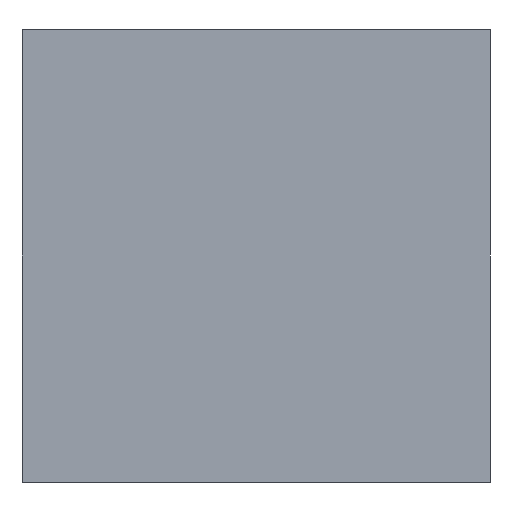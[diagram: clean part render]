
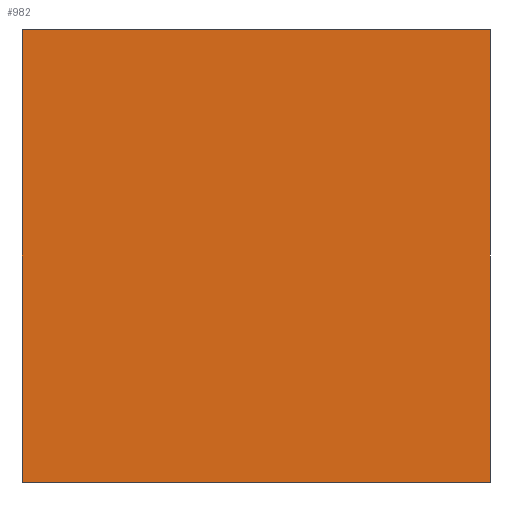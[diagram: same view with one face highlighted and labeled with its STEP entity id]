
A CAD part, left-side view. The second image highlights one B-rep face of the part: STEP entity #982.
In plain terms, the highlighted planar face has unit normal (-1, 0, 0).
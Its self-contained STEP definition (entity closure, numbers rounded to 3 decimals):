
#25 = AXIS2_PLACEMENT_3D ( 'NONE', #756, #1174, #1326 ) ;
#32 = CARTESIAN_POINT ( 'NONE',  ( -98., 25.5, 49.3 ) ) ;
#39 = CARTESIAN_POINT ( 'NONE',  ( -98., -25.5, 0. ) ) ;
#163 = VERTEX_POINT ( 'NONE', #1120 ) ;
#228 = EDGE_LOOP ( 'NONE', ( #680, #2117, #1532, #1741 ) ) ;
#311 = CARTESIAN_POINT ( 'NONE',  ( -98., -25.5, 0. ) ) ;
#386 = LINE ( 'NONE', #901, #1773 ) ;
#494 = VERTEX_POINT ( 'NONE', #32 ) ;
#605 = EDGE_CURVE ( 'NONE', #494, #163, #1764, .T. ) ;
#639 = VECTOR ( 'NONE', #1991, 1000. ) ;
#651 = VECTOR ( 'NONE', #1537, 1000. ) ;
#680 = ORIENTED_EDGE ( 'NONE', *, *, #1598, .T. ) ;
#711 = LINE ( 'NONE', #722, #651 ) ;
#722 = CARTESIAN_POINT ( 'NONE',  ( -98., -25.5, 49.3 ) ) ;
#745 = FACE_OUTER_BOUND ( 'NONE', #228, .T. ) ;
#756 = CARTESIAN_POINT ( 'NONE',  ( -98., -25.5, 49.3 ) ) ;
#778 = VERTEX_POINT ( 'NONE', #874 ) ;
#786 = VERTEX_POINT ( 'NONE', #311 ) ;
#874 = CARTESIAN_POINT ( 'NONE',  ( -98., -25.5, 49.3 ) ) ;
#901 = CARTESIAN_POINT ( 'NONE',  ( -98., -25.5, 49.3 ) ) ;
#982 = ADVANCED_FACE ( 'NONE', ( #745 ), #2475, .F. ) ;
#1014 = CARTESIAN_POINT ( 'NONE',  ( -98., 25.5, 49.3 ) ) ;
#1026 = DIRECTION ( 'NONE',  ( 0., 0., -1. ) ) ;
#1120 = CARTESIAN_POINT ( 'NONE',  ( -98., 25.5, 0. ) ) ;
#1133 = EDGE_CURVE ( 'NONE', #494, #778, #386, .T. ) ;
#1142 = DIRECTION ( 'NONE',  ( 0., -1., 0. ) ) ;
#1174 = DIRECTION ( 'NONE',  ( 1., 0., 0. ) ) ;
#1326 = DIRECTION ( 'NONE',  ( 0., 0., -1. ) ) ;
#1366 = VECTOR ( 'NONE', #1026, 1000. ) ;
#1532 = ORIENTED_EDGE ( 'NONE', *, *, #1133, .F. ) ;
#1537 = DIRECTION ( 'NONE',  ( 0., 0., -1. ) ) ;
#1598 = EDGE_CURVE ( 'NONE', #163, #786, #2225, .T. ) ;
#1741 = ORIENTED_EDGE ( 'NONE', *, *, #605, .T. ) ;
#1764 = LINE ( 'NONE', #1014, #1366 ) ;
#1773 = VECTOR ( 'NONE', #1142, 1000. ) ;
#1991 = DIRECTION ( 'NONE',  ( 0., -1., 0. ) ) ;
#2117 = ORIENTED_EDGE ( 'NONE', *, *, #2195, .F. ) ;
#2195 = EDGE_CURVE ( 'NONE', #778, #786, #711, .T. ) ;
#2225 = LINE ( 'NONE', #39, #639 ) ;
#2475 = PLANE ( 'NONE',  #25 ) ;
